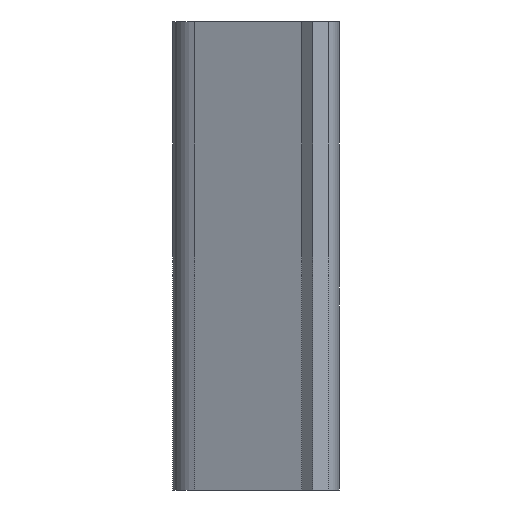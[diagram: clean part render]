
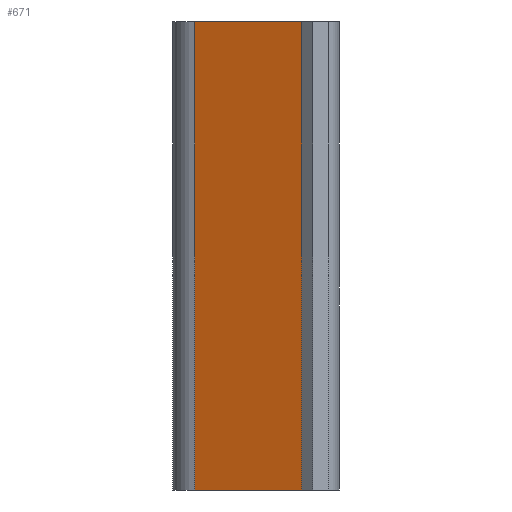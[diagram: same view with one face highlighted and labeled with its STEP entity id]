
A CAD part, left-side view. The second image highlights one B-rep face of the part: STEP entity #671.
In plain terms, the highlighted planar face has unit normal (-0.929, 0.369, 0).
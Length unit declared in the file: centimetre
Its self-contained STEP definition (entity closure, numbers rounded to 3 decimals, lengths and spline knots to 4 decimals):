
#38=PLANE('',#737);
#67=FACE_OUTER_BOUND('',#109,.T.);
#109=EDGE_LOOP('',(#546,#547,#548,#549));
#171=LINE('',#1114,#235);
#172=LINE('',#1118,#236);
#173=LINE('',#1120,#237);
#174=LINE('',#1121,#238);
#235=VECTOR('',#911,1.);
#236=VECTOR('',#916,1.);
#237=VECTOR('',#917,1.);
#238=VECTOR('',#918,1.);
#336=VERTEX_POINT('',#1111);
#337=VERTEX_POINT('',#1113);
#338=VERTEX_POINT('',#1117);
#339=VERTEX_POINT('',#1119);
#424=EDGE_CURVE('',#337,#336,#171,.T.);
#426=EDGE_CURVE('',#336,#338,#172,.T.);
#427=EDGE_CURVE('',#339,#338,#173,.T.);
#428=EDGE_CURVE('',#339,#337,#174,.T.);
#546=ORIENTED_EDGE('',*,*,#426,.T.);
#547=ORIENTED_EDGE('',*,*,#427,.F.);
#548=ORIENTED_EDGE('',*,*,#428,.T.);
#549=ORIENTED_EDGE('',*,*,#424,.T.);
#671=ADVANCED_FACE('',(#67),#38,.T.);
#737=AXIS2_PLACEMENT_3D('',#1116,#914,#915);
#911=DIRECTION('',(0.,0.,1.));
#914=DIRECTION('center_axis',(-0.929,0.369,0.));
#915=DIRECTION('ref_axis',(0.,0.,1.));
#916=DIRECTION('',(0.369,0.929,0.));
#917=DIRECTION('',(0.,0.,1.));
#918=DIRECTION('',(-0.369,-0.929,0.));
#1111=CARTESIAN_POINT('',(611.5811,363.5491,121.));
#1113=CARTESIAN_POINT('',(611.5811,363.5491,0.));
#1114=CARTESIAN_POINT('',(611.5811,363.5491,0.));
#1116=CARTESIAN_POINT('Origin',(611.5811,363.5491,0.));
#1117=CARTESIAN_POINT('',(623.572,393.7198,121.));
#1118=CARTESIAN_POINT('',(623.572,393.7198,121.));
#1119=CARTESIAN_POINT('',(623.572,393.7198,0.));
#1120=CARTESIAN_POINT('',(623.572,393.7198,0.));
#1121=CARTESIAN_POINT('',(623.572,393.7198,0.));
